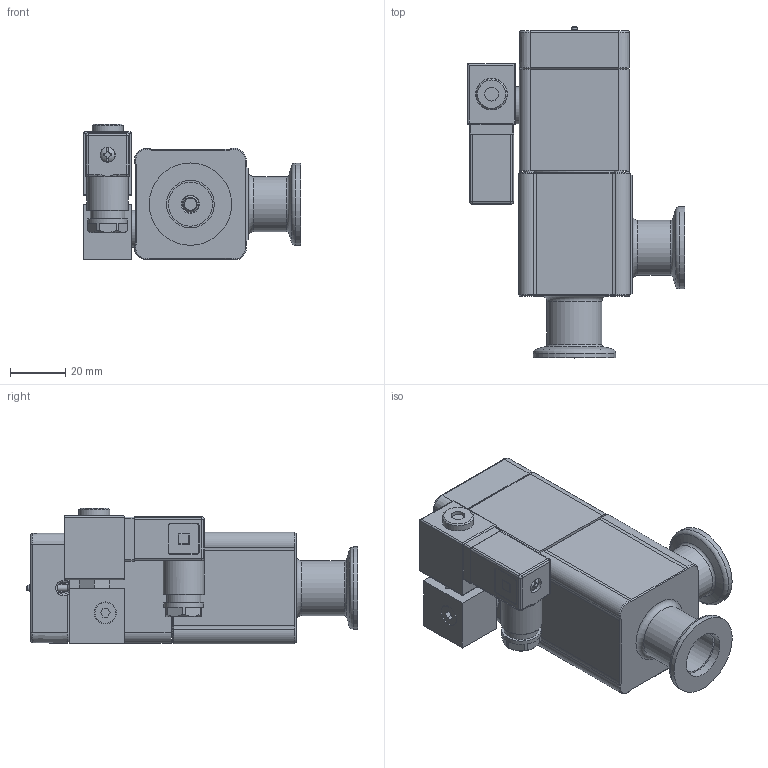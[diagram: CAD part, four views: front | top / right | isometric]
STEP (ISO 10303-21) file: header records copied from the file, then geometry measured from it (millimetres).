
FILE_DESCRIPTION(/* description */ (''),/* implementation_level */ '2;1');
FILE_NAME(/* name */ '1918033720_203.stp',/* time_stamp */ '2013-09-18T13:22:27+02:00',/* author */ (''),/* organization */ (''),/* preprocessor_version */ 'ST-DEVELOPER v11',/* originating_system */ 'SIEMENS PLM Software NX 7.5',/* authorisation */ '');
FILE_SCHEMA (('AP203_CONFIGURATION_CONTROLLED_3D_DESIGN_OF_MECHANICAL_PARTS_AND_ASSEMBLIES_MIM_LF'));
Length unit declared in the file: millimetre
Products named in the file (13): 467882; 437235; 244091.2; 233364; 236204_1.1; 242421.3; 243880.7; 244224.1; 244168.6; N-8501-400.2_MODELNX-ARRAGMNTArrangement 1; 443457; 239982.4; 323047.6
Assembly tree (16 placements, depth 4):
  323047.6
    244168.6
    244224.1  x4
    243880.7
    239982.4
      236204_1.1  x2
      233364
    242421.3
    443457
      244091.2
      N-8501-400.2_MODELNX-ARRAGMNTArrangement 1
        437235
        467882
Bounding box: 78.85 x 120.6 x 49.39 mm (x, y, z)
Volume: 120125.6 mm3; surface area: 63683.9 mm2
Topology: 22 solids, 23 shells, 786 faces, 1919 edges, 1238 vertices
Faces by surface type: plane 440, cylinder 182, cone 115, bspline 32, torus 12, sphere 5
Full cylindrical faces by diameter (mm): 2 x2, 2.3 x1, 2.36 x4, 2.4 x4, 2.5 x10, 2.8 x1, 3 x16, 3.4 x4, 4 x2, 4.2 x1, 4.22 x1, 4.7 x3, 4.8 x1, 5 x5, 5.5 x5, 5.6 x2, 6 x4, 6.013 x2, 6.5 x4, 7.4 x1, 7.6 x1, 7.9 x1, 8 x1, 8.85 x1, 10.2 x1, 11.3 x1, 11.4 x1, 11.5 x1, 12.5 x1, 13.5 x1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
Entity records: 24549 total; most frequent: CARTESIAN_POINT 5156, DIRECTION 3360, ORIENTED_EDGE 3100, EDGE_CURVE 1550, AXIS2_PLACEMENT_3D 1211, VERTEX_POINT 1106, EDGE_LOOP 983, LINE 938
